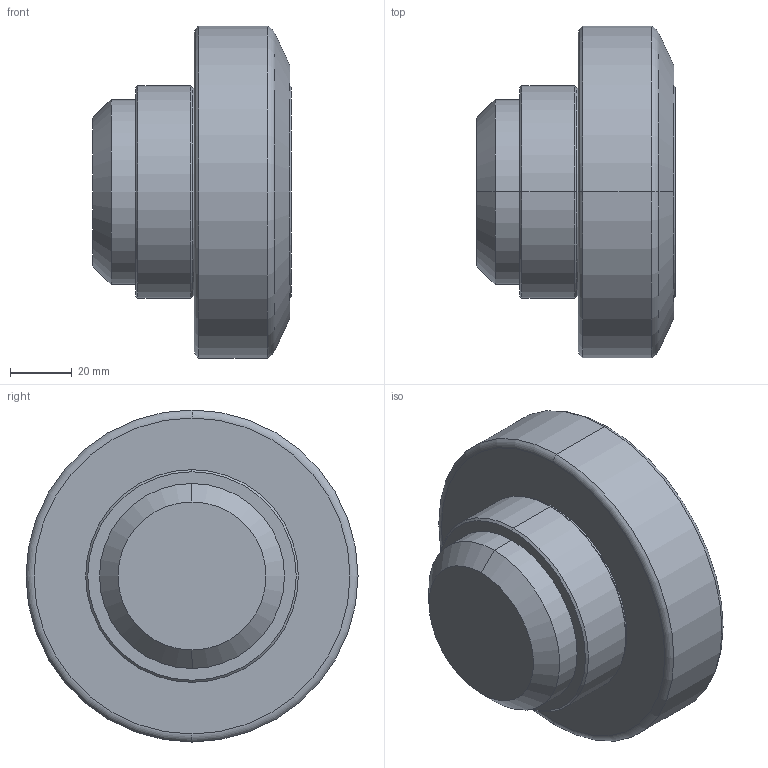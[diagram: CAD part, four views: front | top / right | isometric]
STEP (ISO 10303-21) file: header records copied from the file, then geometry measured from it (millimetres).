
FILE_DESCRIPTION (( 'STEP AP214' ), '1' );
FILE_NAME ('3D2.1641-1.STEP', '2013-12-17T05:03:05', ( 'usuario' ), ( 'Hewlett-Packard Company' ), 'SwSTEP 2.0', 'SolidWorks 2017', '' );
FILE_SCHEMA (( 'AUTOMOTIVE_DESIGN' ));
Length unit declared in the file: millimetre
Products named in the file (1): 3D2.1641-1
Bounding box: 64.5 x 107.7 x 107.7 mm (x, y, z)
Volume: 378845.7 mm3; surface area: 32791.6 mm2
Topology: 1 solids, 1 shells, 27 faces, 52 edges, 30 vertices
Faces by surface type: cone 10, cylinder 8, plane 5, torus 4
Entity records: 722 total; most frequent: DIRECTION 142, CARTESIAN_POINT 110, ORIENTED_EDGE 104, AXIS2_PLACEMENT_3D 62, EDGE_CURVE 52, CIRCLE 34, EDGE_LOOP 30, VERTEX_POINT 30
